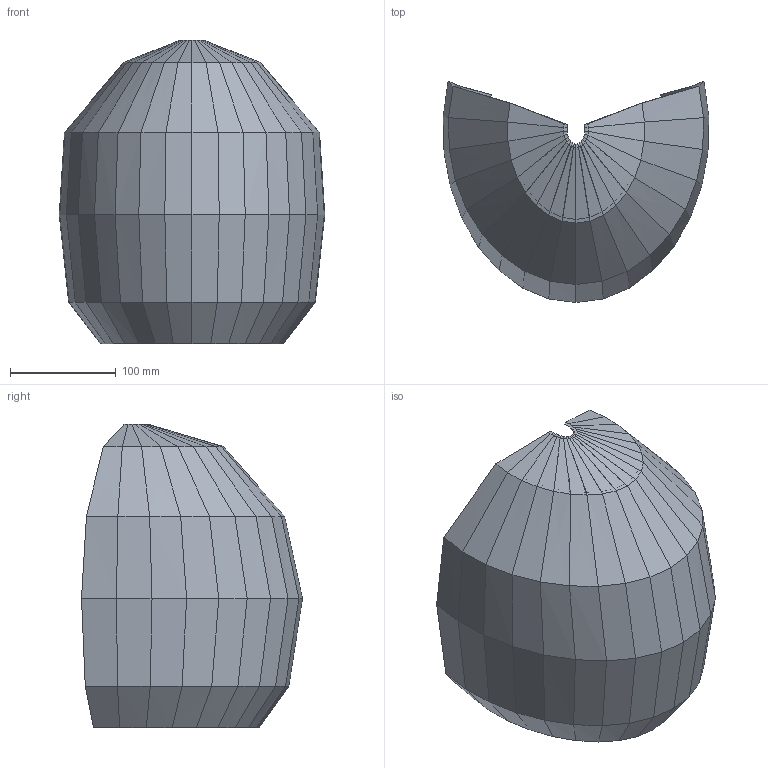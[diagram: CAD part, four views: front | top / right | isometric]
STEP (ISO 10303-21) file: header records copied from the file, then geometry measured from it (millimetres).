
FILE_DESCRIPTION(('Open CASCADE Model'),'2;1');
FILE_NAME('Open CASCADE Shape Model','2026-09-19T23:46:41',('Author'),( 'Open CASCADE'),'Open CASCADE STEP processor 7.9','Open CASCADE 7.9' ,'Unknown');
FILE_SCHEMA(('AUTOMOTIVE_DESIGN { 1 0 10303 214 1 1 1 1 }'));
Length unit declared in the file: millimetre
Products named in the file (1): Open CASCADE STEP translator 7.9 102
Bounding box: 251.32 x 209.2 x 287 mm (x, y, z)
Volume: 452421.9 mm3; surface area: 304438.9 mm2
Topology: 1 solids, 1 shells, 192 faces, 418 edges, 228 vertices
Faces by surface type: bspline 190, plane 2
Entity records: 10000 total; most frequent: CARTESIAN_POINT 2615, DIRECTION 890, LINE 884, VECTOR 884, ORIENTED_EDGE 836, PCURVE 836, DEFINITIONAL_REPRESENTATION 836, EDGE_CURVE 418
